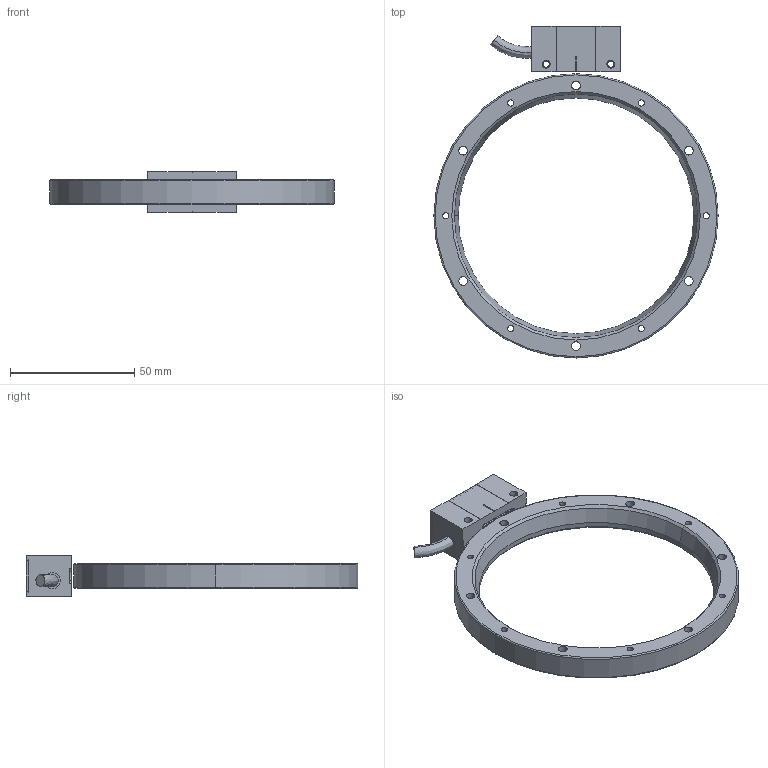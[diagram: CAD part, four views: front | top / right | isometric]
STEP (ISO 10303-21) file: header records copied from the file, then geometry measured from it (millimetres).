
FILE_DESCRIPTION (( 'STEP AP203' ), '1' );
FILE_NAME ('橈勤硉埴掑115郪磁.STEP', '2024-07-05T08:04:08', ( '' ), ( '' ), 'SwSTEP 2.0', 'SolidWorks 2024', '' );
FILE_SCHEMA (( 'CONFIG_CONTROL_DESIGN' ));
Length unit declared in the file: millimetre
Products named in the file (4): ___________2.STEP; 绝对值圆栅100组合.STEP; 绝对值圆栅115组合; LM003-115-01  115圆环
Assembly tree (3 placements, depth 3):
  绝对值圆栅115组合
    绝对值圆栅100组合.STEP
      ___________2.STEP
    LM003-115-01  115圆环
Bounding box: 114.6 x 133.8 x 16.5 mm (x, y, z)
Volume: 39146.9 mm3; surface area: 18980.9 mm2
Topology: 6 solids, 6 shells, 180 faces, 434 edges, 283 vertices
Faces by surface type: cylinder 96, plane 68, cone 10, torus 4, bspline 2
Entity records: 5956 total; most frequent: CARTESIAN_POINT 1108, DIRECTION 1002, ORIENTED_EDGE 860, EDGE_CURVE 430, AXIS2_PLACEMENT_3D 393, VERTEX_POINT 283, EDGE_LOOP 235, LINE 216
